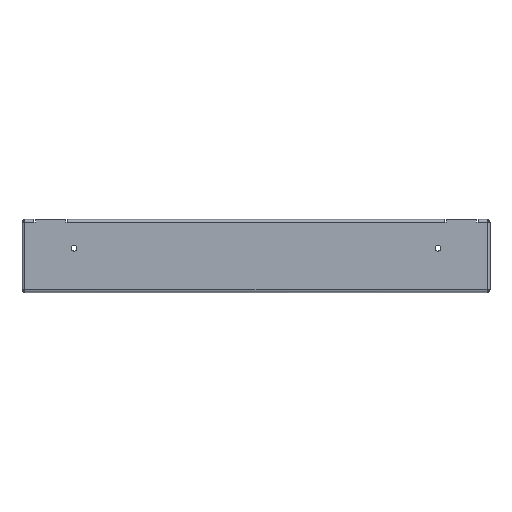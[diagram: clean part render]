
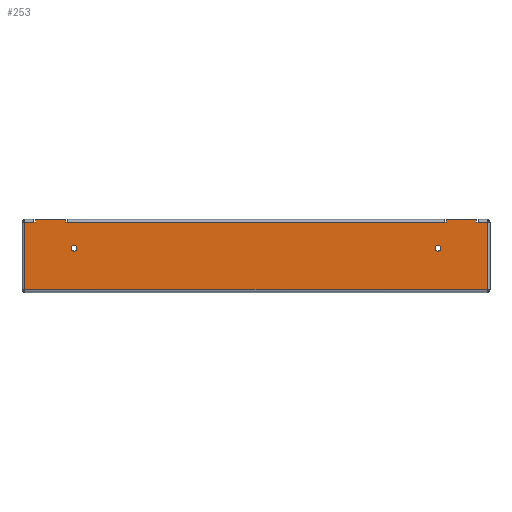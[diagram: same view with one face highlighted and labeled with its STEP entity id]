
A CAD part, top view. The second image highlights one B-rep face of the part: STEP entity #253.
In plain terms, the highlighted planar face has unit normal (0, 0, 1).
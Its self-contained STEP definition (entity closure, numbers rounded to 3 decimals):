
#253=ADVANCED_FACE('',(#1411,#1413,#1415),#1417,.F.);
#1411=FACE_BOUND('',#1412,.T.);
#1412=EDGE_LOOP('',(#2640,#2641,#2642,#2643,#2644,#2645,#2646,#2647,#2648,#2649,
#2650,#2651,#2652,#2653,#2654,#2655,#2656,#2657,#2658,#2659));
#1413=FACE_BOUND('',#1414,.T.);
#1414=EDGE_LOOP('',(#2660));
#1415=FACE_BOUND('',#1416,.T.);
#1416=EDGE_LOOP('',(#2661));
#1417=PLANE('',#1418);
#1418=AXIS2_PLACEMENT_3D('',#1419,#1420,#1421);
#1419=CARTESIAN_POINT('',(0.,0.,0.));
#1420=DIRECTION('',(0.,0.,-1.));
#1421=DIRECTION('',(-1.,0.,0.));
#2640=ORIENTED_EDGE('',*,*,#3178,.F.);
#2641=ORIENTED_EDGE('',*,*,#3233,.T.);
#2642=ORIENTED_EDGE('',*,*,#3186,.T.);
#2643=ORIENTED_EDGE('',*,*,#3234,.F.);
#2644=ORIENTED_EDGE('',*,*,#3235,.F.);
#2645=ORIENTED_EDGE('',*,*,#3236,.T.);
#2646=ORIENTED_EDGE('',*,*,#3237,.T.);
#2647=ORIENTED_EDGE('',*,*,#3238,.T.);
#2648=ORIENTED_EDGE('',*,*,#3182,.F.);
#2649=ORIENTED_EDGE('',*,*,#3239,.T.);
#2650=ORIENTED_EDGE('',*,*,#3190,.T.);
#2651=ORIENTED_EDGE('',*,*,#3240,.T.);
#2652=ORIENTED_EDGE('',*,*,#3241,.T.);
#2653=ORIENTED_EDGE('',*,*,#3242,.T.);
#2654=ORIENTED_EDGE('',*,*,#3243,.T.);
#2655=ORIENTED_EDGE('',*,*,#3244,.F.);
#2656=ORIENTED_EDGE('',*,*,#3245,.F.);
#2657=ORIENTED_EDGE('',*,*,#3246,.T.);
#2658=ORIENTED_EDGE('',*,*,#3247,.T.);
#2659=ORIENTED_EDGE('',*,*,#3248,.T.);
#2660=ORIENTED_EDGE('',*,*,#3171,.F.);
#2661=ORIENTED_EDGE('',*,*,#3173,.F.);
#3171=EDGE_CURVE('',#3487,#3487,#3488,.T.);
#3173=EDGE_CURVE('',#3491,#3491,#3492,.T.);
#3178=EDGE_CURVE('',#3500,#3496,#3502,.T.);
#3182=EDGE_CURVE('',#3508,#3504,#3510,.T.);
#3186=EDGE_CURVE('',#3512,#3516,#3518,.T.);
#3190=EDGE_CURVE('',#3520,#3524,#3526,.T.);
#3233=EDGE_CURVE('',#3500,#3512,#3599,.T.);
#3234=EDGE_CURVE('',#3600,#3516,#3601,.T.);
#3235=EDGE_CURVE('',#3602,#3600,#3603,.T.);
#3236=EDGE_CURVE('',#3602,#3604,#3605,.T.);
#3237=EDGE_CURVE('',#3604,#3606,#3607,.T.);
#3238=EDGE_CURVE('',#3606,#3504,#3608,.T.);
#3239=EDGE_CURVE('',#3508,#3520,#3609,.T.);
#3240=EDGE_CURVE('',#3524,#3610,#3611,.T.);
#3241=EDGE_CURVE('',#3610,#3612,#3613,.T.);
#3242=EDGE_CURVE('',#3612,#3614,#3615,.T.);
#3243=EDGE_CURVE('',#3614,#3616,#3617,.T.);
#3244=EDGE_CURVE('',#3618,#3616,#3619,.T.);
#3245=EDGE_CURVE('',#3620,#3618,#3621,.T.);
#3246=EDGE_CURVE('',#3620,#3622,#3623,.T.);
#3247=EDGE_CURVE('',#3622,#3624,#3625,.T.);
#3248=EDGE_CURVE('',#3624,#3496,#3626,.T.);
#3487=VERTEX_POINT('',#4013);
#3488=CIRCLE('',#4014,3.65);
#3491=VERTEX_POINT('',#4023);
#3492=CIRCLE('',#4024,3.65);
#3496=VERTEX_POINT('',#4034);
#3500=VERTEX_POINT('',#4042);
#3502=LINE('',#4046,#4047);
#3504=VERTEX_POINT('',#4050);
#3508=VERTEX_POINT('',#4058);
#3510=LINE('',#4062,#4063);
#3512=VERTEX_POINT('',#4066);
#3516=VERTEX_POINT('',#4075);
#3518=LINE('',#4080,#4081);
#3520=VERTEX_POINT('',#4084);
#3524=VERTEX_POINT('',#4093);
#3526=LINE('',#4111,#4112);
#3599=LINE('',#4286,#4287);
#3600=VERTEX_POINT('',#4289);
#3601=LINE('',#4290,#4291);
#3602=VERTEX_POINT('',#4293);
#3603=LINE('',#4294,#4295);
#3604=VERTEX_POINT('',#4297);
#3605=LINE('',#4298,#4299);
#3606=VERTEX_POINT('',#4301);
#3607=LINE('',#4302,#4303);
#3608=LINE('',#4305,#4306);
#3609=LINE('',#4308,#4309);
#3610=VERTEX_POINT('',#4311);
#3611=LINE('',#4312,#4313);
#3612=VERTEX_POINT('',#4315);
#3613=LINE('',#4316,#4317);
#3614=VERTEX_POINT('',#4319);
#3615=LINE('',#4320,#4321);
#3616=VERTEX_POINT('',#4323);
#3617=LINE('',#4324,#4325);
#3618=VERTEX_POINT('',#4327);
#3619=LINE('',#4328,#4329);
#3620=VERTEX_POINT('',#4331);
#3621=LINE('',#4332,#4333);
#3622=VERTEX_POINT('',#4335);
#3623=LINE('',#4336,#4337);
#3624=VERTEX_POINT('',#4339);
#3625=LINE('',#4340,#4341);
#3626=LINE('',#4343,#4344);
#4013=CARTESIAN_POINT('',(-224.35,9.75,0.));
#4014=AXIS2_PLACEMENT_3D('',#4015,#4016,#4017);
#4015=CARTESIAN_POINT('',(-228.,9.75,0.));
#4016=DIRECTION('',(0.,0.,1.));
#4017=DIRECTION('',(-1.,0.,0.));
#4023=CARTESIAN_POINT('',(231.65,9.75,0.));
#4024=AXIS2_PLACEMENT_3D('',#4025,#4026,#4027);
#4025=CARTESIAN_POINT('',(228.,9.75,0.));
#4026=DIRECTION('',(0.,0.,1.));
#4027=DIRECTION('',(-1.,0.,0.));
#4034=CARTESIAN_POINT('',(238.2,42.35,0.));
#4042=CARTESIAN_POINT('',(236.2,42.35,0.));
#4046=CARTESIAN_POINT('',(236.2,42.35,0.));
#4047=VECTOR('',#4048,1.);
#4048=DIRECTION('',(1.,0.,0.));
#4050=CARTESIAN_POINT('',(-276.2,42.35,0.));
#4058=CARTESIAN_POINT('',(-278.2,42.35,0.));
#4062=CARTESIAN_POINT('',(-278.2,42.35,0.));
#4063=VECTOR('',#4064,1.);
#4064=DIRECTION('',(1.,0.,0.));
#4066=CARTESIAN_POINT('',(236.2,42.55,0.));
#4075=CARTESIAN_POINT('',(-236.2,42.55,0.));
#4080=CARTESIAN_POINT('',(236.2,42.55,0.));
#4081=VECTOR('',#4082,1.);
#4082=DIRECTION('',(-1.,0.,0.));
#4084=CARTESIAN_POINT('',(-278.2,42.55,0.));
#4093=CARTESIAN_POINT('',(-290.,42.55,0.));
#4111=CARTESIAN_POINT('',(-278.2,42.55,0.));
#4112=VECTOR('',#4113,1.);
#4113=DIRECTION('',(-1.,0.,0.));
#4286=CARTESIAN_POINT('',(236.2,42.35,0.));
#4287=VECTOR('',#4288,1.);
#4288=DIRECTION('',(0.,1.,0.));
#4289=CARTESIAN_POINT('',(-236.2,42.35,0.));
#4290=CARTESIAN_POINT('',(-236.2,42.35,0.));
#4291=VECTOR('',#4292,1.);
#4292=DIRECTION('',(0.,1.,0.));
#4293=CARTESIAN_POINT('',(-238.2,42.35,0.));
#4294=CARTESIAN_POINT('',(-238.2,42.35,0.));
#4295=VECTOR('',#4296,1.);
#4296=DIRECTION('',(1.,0.,0.));
#4297=CARTESIAN_POINT('',(-238.2,45.75,0.));
#4298=CARTESIAN_POINT('',(-238.2,42.35,0.));
#4299=VECTOR('',#4300,1.);
#4300=DIRECTION('',(0.,1.,0.));
#4301=CARTESIAN_POINT('',(-276.2,45.75,0.));
#4302=CARTESIAN_POINT('',(-238.2,45.75,0.));
#4303=VECTOR('',#4304,1.);
#4304=DIRECTION('',(-1.,0.,0.));
#4305=CARTESIAN_POINT('',(-276.2,45.75,0.));
#4306=VECTOR('',#4307,1.);
#4307=DIRECTION('',(0.,-1.,0.));
#4308=CARTESIAN_POINT('',(-278.2,42.35,0.));
#4309=VECTOR('',#4310,1.);
#4310=DIRECTION('',(0.,1.,0.));
#4311=CARTESIAN_POINT('',(-290.,-42.55,0.));
#4312=CARTESIAN_POINT('',(-290.,42.55,0.));
#4313=VECTOR('',#4314,1.);
#4314=DIRECTION('',(0.,-1.,0.));
#4315=CARTESIAN_POINT('',(290.,-42.55,0.));
#4316=CARTESIAN_POINT('',(-290.,-42.55,0.));
#4317=VECTOR('',#4318,1.);
#4318=DIRECTION('',(1.,0.,0.));
#4319=CARTESIAN_POINT('',(290.,42.55,0.));
#4320=CARTESIAN_POINT('',(290.,-42.55,0.));
#4321=VECTOR('',#4322,1.);
#4322=DIRECTION('',(0.,1.,0.));
#4323=CARTESIAN_POINT('',(278.2,42.55,0.));
#4324=CARTESIAN_POINT('',(290.,42.55,0.));
#4325=VECTOR('',#4326,1.);
#4326=DIRECTION('',(-1.,0.,0.));
#4327=CARTESIAN_POINT('',(278.2,42.35,0.));
#4328=CARTESIAN_POINT('',(278.2,42.35,0.));
#4329=VECTOR('',#4330,1.);
#4330=DIRECTION('',(0.,1.,0.));
#4331=CARTESIAN_POINT('',(276.2,42.35,0.));
#4332=CARTESIAN_POINT('',(276.2,42.35,0.));
#4333=VECTOR('',#4334,1.);
#4334=DIRECTION('',(1.,0.,0.));
#4335=CARTESIAN_POINT('',(276.2,45.75,0.));
#4336=CARTESIAN_POINT('',(276.2,42.35,0.));
#4337=VECTOR('',#4338,1.);
#4338=DIRECTION('',(0.,1.,0.));
#4339=CARTESIAN_POINT('',(238.2,45.75,0.));
#4340=CARTESIAN_POINT('',(276.2,45.75,0.));
#4341=VECTOR('',#4342,1.);
#4342=DIRECTION('',(-1.,0.,0.));
#4343=CARTESIAN_POINT('',(238.2,45.75,0.));
#4344=VECTOR('',#4345,1.);
#4345=DIRECTION('',(0.,-1.,0.));
